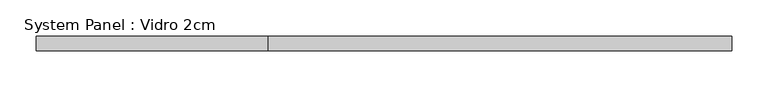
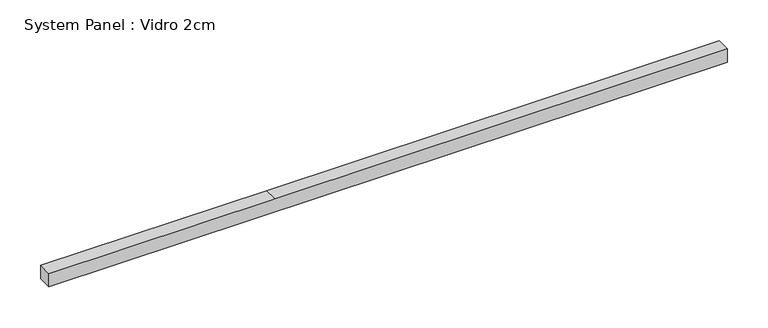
"""IFC4 building model written with IfcOpenShell, lengths in millimetres: plate geometry, System Panel : Vidro 2cm."""

from ifc_helpers import new_model, si_unit, frame, origin, place, context, project, spatial, polyline, outline, extrude, source, transform, mapped, element, save


def system_panel_vidro_2cm_e9956cb0(model_context):
    return source(origin(), model_context, "Body", "SweptSolid", [
        extrude(outline(polyline([(0.0, -480.0), (0.0, 480.0), (20.0, 480.0), (20.0, -160.0000003), (20.0, -480.0), (0.0, -480.0)])), frame((0.0, -20.0, 0.0), z_axis=(0.0, 1.0, 0.0), x_axis=(0.0, 0.0, 1.0)), (0.0, 0.0, 1.0), 20.0),
    ])


if __name__ == "__main__":
    model = new_model("IFC4")
    model_context = context("Model", 3, world=origin())
    ifc_project = project(units=[si_unit("LENGTHUNIT", "METRE", prefix="MILLI")], contexts=[model_context])
    site = spatial("IfcSite", under=ifc_project)
    building = spatial("IfcBuilding", under=site)
    placement = place(None, origin())
    system_panel_vidro_2cm_shape = system_panel_vidro_2cm_e9956cb0(model_context)
    element("IfcPlate", 1, ObjectType="System Panel : Vidro 2cm", at=placement, inside=building, context=model_context, shape_type="MappedRepresentation", body=[
        mapped(system_panel_vidro_2cm_shape, transform((0.0, 0.0, 0.0), x_axis=(1.0, 0.0, 0.0), y_axis=(0.0, 1.0, 0.0), z_axis=(0.0, 0.0, 1.0))),
    ])
    save(model, "model.ifc")
